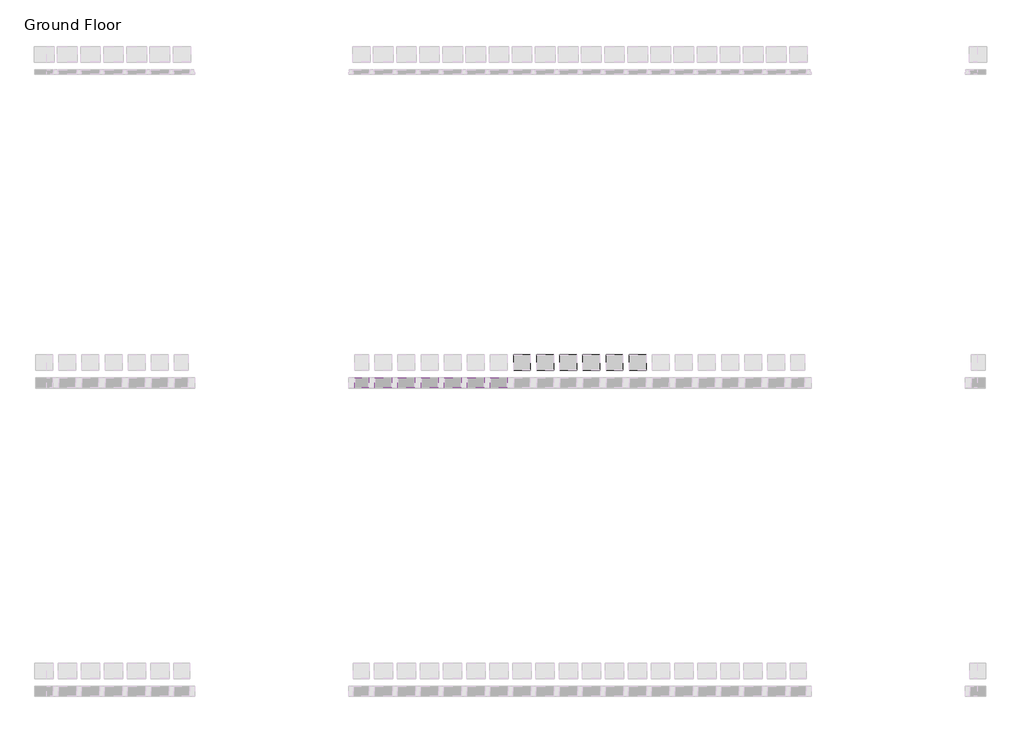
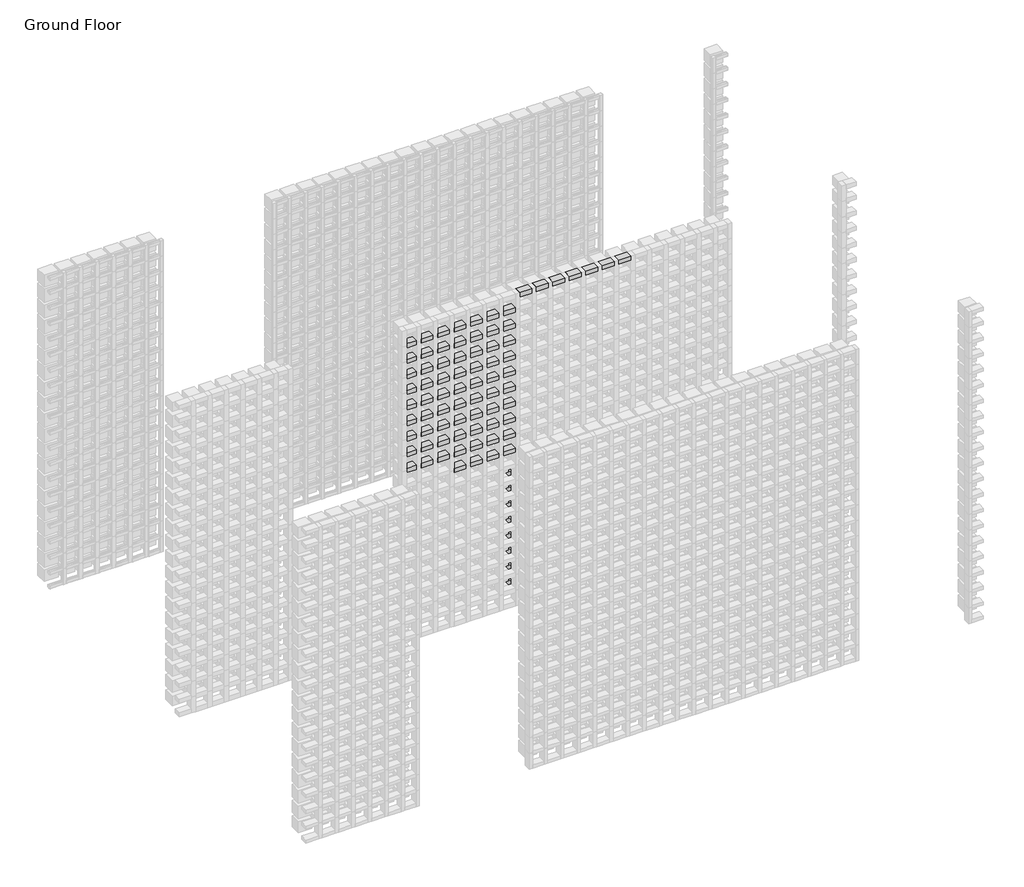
# One storey, part 129 of 350: 86 members, 55 plates.
"""IFC4 building model written with IfcOpenShell, lengths in millimetres."""

from ifc_helpers import new_model, si_unit, origin, place, context, project, spatial, transform, mapped, element, save
from components import rectangular_mullion_655930e9, rectangular_mullion_581565bb, rectangular_mullion_d5b82d3d, rectangular_mullion_0b6a8654, rectangular_mullion_97e353d0, empty_system_panel_empty_3b500fad, empty_system_panel_empty_1faefc6a

model = new_model("IFC4")

# Units and contexts
model_context = context("Model", 3, world=origin())
ifc_project = project(units=[si_unit("LENGTHUNIT", "METRE", prefix="MILLI")], contexts=[model_context])

# Site, building, storey
site = spatial("IfcSite", under=ifc_project)
building = spatial("IfcBuilding", under=site)
storey = spatial("IfcBuildingStorey", under=building, Name="Ground Floor", Elevation=0.0)

# Members
placement = place(None, origin())
rectangular_mullion_shape = rectangular_mullion_655930e9(model_context)
element("IfcMember", 1, ObjectType="Rectangular Mullion : Batten_Timber_Modinex_Austratus_Grid_Fascia_40x65_Hemlock", at=placement, inside=storey, context=model_context, shape_type="MappedRepresentation", body=[
    mapped(rectangular_mullion_shape, transform((11116.4361642, 40968.2978302, 0.0), x_axis=(1.0, 0.0, 0.0), y_axis=(0.0, -1.0, 0.0), z_axis=(0.0, 0.0, -1.0))),
])
element("IfcMember", 2, ObjectType="Rectangular Mullion : Batten_Timber_Modinex_Austratus_Grid_Fascia_40x65_Hemlock", at=placement, inside=storey, context=model_context, shape_type="MappedRepresentation", body=[
    mapped(rectangular_mullion_shape, transform((11266.4361642, 40968.2978302, 0.0), x_axis=(1.0, 0.0, 0.0), y_axis=(0.0, -1.0, 0.0), z_axis=(0.0, 0.0, -1.0))),
])
element("IfcMember", 3, ObjectType="Rectangular Mullion : Batten_Timber_Modinex_Austratus_Grid_Fascia_40x65_Hemlock", at=placement, inside=storey, context=model_context, shape_type="MappedRepresentation", body=[
    mapped(rectangular_mullion_shape, transform((11416.4361642, 40968.2978302, 0.0), x_axis=(1.0, 0.0, 0.0), y_axis=(0.0, -1.0, 0.0), z_axis=(0.0, 0.0, -1.0))),
])
element("IfcMember", 4, ObjectType="Rectangular Mullion : Batten_Timber_Modinex_Austratus_Grid_Fascia_40x65_Hemlock", at=placement, inside=storey, context=model_context, shape_type="MappedRepresentation", body=[
    mapped(rectangular_mullion_shape, transform((11566.4361642, 40968.2978302, 0.0), x_axis=(1.0, 0.0, 0.0), y_axis=(0.0, -1.0, 0.0), z_axis=(0.0, 0.0, -1.0))),
])
element("IfcMember", 5, ObjectType="Rectangular Mullion : Batten_Timber_Modinex_Austratus_Grid_Fascia_40x65_Hemlock", at=placement, inside=storey, context=model_context, shape_type="MappedRepresentation", body=[
    mapped(rectangular_mullion_shape, transform((11716.4361642, 40968.2978302, 0.0), x_axis=(1.0, 0.0, 0.0), y_axis=(0.0, -1.0, 0.0), z_axis=(0.0, 0.0, -1.0))),
])
element("IfcMember", 6, ObjectType="Rectangular Mullion : Batten_Timber_Modinex_Austratus_Grid_Fascia_40x65_Hemlock", at=placement, inside=storey, context=model_context, shape_type="MappedRepresentation", body=[
    mapped(rectangular_mullion_shape, transform((11866.4361642, 40968.2978302, 0.0), x_axis=(1.0, 0.0, 0.0), y_axis=(0.0, -1.0, 0.0), z_axis=(0.0, 0.0, -1.0))),
])
rectangular_mullion_2_shape = rectangular_mullion_581565bb(model_context)
element("IfcMember", 7, ObjectType="Rectangular Mullion : Batten_Timber_Modinex_Austratus_Grid_Fascia_40x65_Hemlock", at=placement, inside=storey, context=model_context, shape_type="MappedRepresentation", body=[
    mapped(rectangular_mullion_2_shape, transform((11096.4361642, 40968.2978302, 3000.0), x_axis=(0.0, 0.0, 1.0), y_axis=(0.0, -1.0, 0.0), z_axis=(1.0, 0.0, 0.0))),
])
element("IfcMember", 8, ObjectType="Rectangular Mullion : Batten_Timber_Modinex_Austratus_Grid_Fascia_40x65_Hemlock", at=placement, inside=storey, context=model_context, shape_type="MappedRepresentation", body=[
    mapped(rectangular_mullion_2_shape, transform((11246.4361642, 40968.2978302, 3000.0), x_axis=(0.0, 0.0, 1.0), y_axis=(0.0, -1.0, 0.0), z_axis=(1.0, 0.0, 0.0))),
])
element("IfcMember", 9, ObjectType="Rectangular Mullion : Batten_Timber_Modinex_Austratus_Grid_Fascia_40x65_Hemlock", at=placement, inside=storey, context=model_context, shape_type="MappedRepresentation", body=[
    mapped(rectangular_mullion_2_shape, transform((11396.4361642, 40968.2978302, 3000.0), x_axis=(0.0, 0.0, 1.0), y_axis=(0.0, -1.0, 0.0), z_axis=(1.0, 0.0, 0.0))),
])
element("IfcMember", 10, ObjectType="Rectangular Mullion : Batten_Timber_Modinex_Austratus_Grid_Fascia_40x65_Hemlock", at=placement, inside=storey, context=model_context, shape_type="MappedRepresentation", body=[
    mapped(rectangular_mullion_2_shape, transform((11546.4361642, 40968.2978302, 3000.0), x_axis=(0.0, 0.0, 1.0), y_axis=(0.0, -1.0, 0.0), z_axis=(1.0, 0.0, 0.0))),
])
element("IfcMember", 11, ObjectType="Rectangular Mullion : Batten_Timber_Modinex_Austratus_Grid_Fascia_40x65_Hemlock", at=placement, inside=storey, context=model_context, shape_type="MappedRepresentation", body=[
    mapped(rectangular_mullion_2_shape, transform((11696.4361642, 40968.2978302, 3000.0), x_axis=(0.0, 0.0, 1.0), y_axis=(0.0, -1.0, 0.0), z_axis=(1.0, 0.0, 0.0))),
])
element("IfcMember", 12, ObjectType="Rectangular Mullion : Batten_Timber_Modinex_Austratus_Grid_Fascia_40x65_Hemlock", at=placement, inside=storey, context=model_context, shape_type="MappedRepresentation", body=[
    mapped(rectangular_mullion_2_shape, transform((11846.4361642, 40968.2978302, 3000.0), x_axis=(0.0, 0.0, 1.0), y_axis=(0.0, -1.0, 0.0), z_axis=(1.0, 0.0, 0.0))),
])
element("IfcMember", 13, ObjectType="Rectangular Mullion : Batten_Timber_Modinex_Austratus_Grid_Fascia_40x65_Hemlock", at=placement, inside=storey, context=model_context, shape_type="MappedRepresentation", body=[
    mapped(rectangular_mullion_2_shape, transform((11996.4361642, 40968.2978302, 3000.0), x_axis=(0.0, 0.0, 1.0), y_axis=(0.0, -1.0, 0.0), z_axis=(1.0, 0.0, 0.0))),
])
rectangular_mullion_3_shape = rectangular_mullion_d5b82d3d(model_context)
element("IfcMember", 14, ObjectType="Rectangular Mullion : Batten_Timber_Modinex_Austratus_Grid_Fascia_40x65_Hemlock", at=placement, inside=storey, context=model_context, shape_type="MappedRepresentation", body=[
    mapped(rectangular_mullion_3_shape, transform((11136.4361642, 40968.2978302, 0.0), x_axis=(0.0, 0.0, -1.0), y_axis=(0.0, -1.0, 0.0), z_axis=(-1.0, 0.0, 0.0))),
])
element("IfcMember", 15, ObjectType="Rectangular Mullion : Batten_Timber_Modinex_Austratus_Grid_Fascia_40x65_Hemlock", at=placement, inside=storey, context=model_context, shape_type="MappedRepresentation", body=[
    mapped(rectangular_mullion_3_shape, transform((11286.4361642, 40968.2978302, 0.0), x_axis=(0.0, 0.0, -1.0), y_axis=(0.0, -1.0, 0.0), z_axis=(-1.0, 0.0, 0.0))),
])
element("IfcMember", 16, ObjectType="Rectangular Mullion : Batten_Timber_Modinex_Austratus_Grid_Fascia_40x65_Hemlock", at=placement, inside=storey, context=model_context, shape_type="MappedRepresentation", body=[
    mapped(rectangular_mullion_3_shape, transform((11436.4361642, 40968.2978302, 0.0), x_axis=(0.0, 0.0, -1.0), y_axis=(0.0, -1.0, 0.0), z_axis=(-1.0, 0.0, 0.0))),
])
element("IfcMember", 17, ObjectType="Rectangular Mullion : Batten_Timber_Modinex_Austratus_Grid_Fascia_40x65_Hemlock", at=placement, inside=storey, context=model_context, shape_type="MappedRepresentation", body=[
    mapped(rectangular_mullion_3_shape, transform((11586.4361642, 40968.2978302, 0.0), x_axis=(0.0, 0.0, -1.0), y_axis=(0.0, -1.0, 0.0), z_axis=(-1.0, 0.0, 0.0))),
])
element("IfcMember", 18, ObjectType="Rectangular Mullion : Batten_Timber_Modinex_Austratus_Grid_Fascia_40x65_Hemlock", at=placement, inside=storey, context=model_context, shape_type="MappedRepresentation", body=[
    mapped(rectangular_mullion_3_shape, transform((11736.4361642, 40968.2978302, 0.0), x_axis=(0.0, 0.0, -1.0), y_axis=(0.0, -1.0, 0.0), z_axis=(-1.0, 0.0, 0.0))),
])
element("IfcMember", 19, ObjectType="Rectangular Mullion : Batten_Timber_Modinex_Austratus_Grid_Fascia_40x65_Hemlock", at=placement, inside=storey, context=model_context, shape_type="MappedRepresentation", body=[
    mapped(rectangular_mullion_3_shape, transform((11886.4361642, 40968.2978302, 0.0), x_axis=(0.0, 0.0, -1.0), y_axis=(0.0, -1.0, 0.0), z_axis=(-1.0, 0.0, 0.0))),
])
rectangular_mullion_4_shape = rectangular_mullion_0b6a8654(model_context)
element("IfcMember", 20, ObjectType="Rectangular Mullion : Batten_Timber_Modinex_Austratus_Grid_Fascia_40x65_Hemlock", at=placement, inside=storey, context=model_context, shape_type="MappedRepresentation", body=[
    mapped(rectangular_mullion_4_shape, transform((10046.4361642, 40968.2978302, 1650.0), x_axis=(0.0, 0.0, 1.0), y_axis=(0.0, -1.0, 0.0), z_axis=(1.0, 0.0, 0.0))),
])
element("IfcMember", 21, ObjectType="Rectangular Mullion : Batten_Timber_Modinex_Austratus_Grid_Fascia_40x65_Hemlock", at=placement, inside=storey, context=model_context, shape_type="MappedRepresentation", body=[
    mapped(rectangular_mullion_4_shape, transform((10046.4361642, 40968.2978302, 1800.0), x_axis=(0.0, 0.0, 1.0), y_axis=(0.0, -1.0, 0.0), z_axis=(1.0, 0.0, 0.0))),
])
element("IfcMember", 22, ObjectType="Rectangular Mullion : Batten_Timber_Modinex_Austratus_Grid_Fascia_40x65_Hemlock", at=placement, inside=storey, context=model_context, shape_type="MappedRepresentation", body=[
    mapped(rectangular_mullion_4_shape, transform((10046.4361642, 40968.2978302, 1950.0), x_axis=(0.0, 0.0, 1.0), y_axis=(0.0, -1.0, 0.0), z_axis=(1.0, 0.0, 0.0))),
])
element("IfcMember", 23, ObjectType="Rectangular Mullion : Batten_Timber_Modinex_Austratus_Grid_Fascia_40x65_Hemlock", at=placement, inside=storey, context=model_context, shape_type="MappedRepresentation", body=[
    mapped(rectangular_mullion_4_shape, transform((10046.4361642, 40968.2978302, 2100.0), x_axis=(0.0, 0.0, 1.0), y_axis=(0.0, -1.0, 0.0), z_axis=(1.0, 0.0, 0.0))),
])
element("IfcMember", 24, ObjectType="Rectangular Mullion : Batten_Timber_Modinex_Austratus_Grid_Fascia_40x65_Hemlock", at=placement, inside=storey, context=model_context, shape_type="MappedRepresentation", body=[
    mapped(rectangular_mullion_4_shape, transform((10046.4361642, 40968.2978302, 2250.0), x_axis=(0.0, 0.0, 1.0), y_axis=(0.0, -1.0, 0.0), z_axis=(1.0, 0.0, 0.0))),
])
element("IfcMember", 25, ObjectType="Rectangular Mullion : Batten_Timber_Modinex_Austratus_Grid_Fascia_40x65_Hemlock", at=placement, inside=storey, context=model_context, shape_type="MappedRepresentation", body=[
    mapped(rectangular_mullion_4_shape, transform((10046.4361642, 40968.2978302, 2400.0), x_axis=(0.0, 0.0, 1.0), y_axis=(0.0, -1.0, 0.0), z_axis=(1.0, 0.0, 0.0))),
])
element("IfcMember", 26, ObjectType="Rectangular Mullion : Batten_Timber_Modinex_Austratus_Grid_Fascia_40x65_Hemlock", at=placement, inside=storey, context=model_context, shape_type="MappedRepresentation", body=[
    mapped(rectangular_mullion_4_shape, transform((10046.4361642, 40968.2978302, 2550.0), x_axis=(0.0, 0.0, 1.0), y_axis=(0.0, -1.0, 0.0), z_axis=(1.0, 0.0, 0.0))),
])
element("IfcMember", 27, ObjectType="Rectangular Mullion : Batten_Timber_Modinex_Austratus_Grid_Fascia_40x65_Hemlock", at=placement, inside=storey, context=model_context, shape_type="MappedRepresentation", body=[
    mapped(rectangular_mullion_4_shape, transform((10046.4361642, 40968.2978302, 2700.0), x_axis=(0.0, 0.0, 1.0), y_axis=(0.0, -1.0, 0.0), z_axis=(1.0, 0.0, 0.0))),
])
element("IfcMember", 28, ObjectType="Rectangular Mullion : Batten_Timber_Modinex_Austratus_Grid_Fascia_40x65_Hemlock", at=placement, inside=storey, context=model_context, shape_type="MappedRepresentation", body=[
    mapped(rectangular_mullion_4_shape, transform((10046.4361642, 40968.2978302, 2850.0), x_axis=(0.0, 0.0, 1.0), y_axis=(0.0, -1.0, 0.0), z_axis=(1.0, 0.0, 0.0))),
])
rectangular_mullion_5_shape = rectangular_mullion_97e353d0(model_context)
element("IfcMember", 29, ObjectType="Rectangular Mullion : Batten_Timber_Modinex_Austratus_Grid_Fascia_40x65_Hemlock", at=placement, inside=storey, context=model_context, shape_type="MappedRepresentation", body=[
    mapped(rectangular_mullion_5_shape, transform((10496.4361642, 40968.2978302, 1500.0), x_axis=(0.0, 0.0, 1.0), y_axis=(0.0, -1.0, 0.0), z_axis=(1.0, 0.0, 0.0))),
])
element("IfcMember", 30, ObjectType="Rectangular Mullion : Batten_Timber_Modinex_Austratus_Grid_Fascia_40x65_Hemlock", at=placement, inside=storey, context=model_context, shape_type="MappedRepresentation", body=[
    mapped(rectangular_mullion_5_shape, transform((10646.4361642, 40968.2978302, 1500.0), x_axis=(0.0, 0.0, 1.0), y_axis=(0.0, -1.0, 0.0), z_axis=(1.0, 0.0, 0.0))),
])
element("IfcMember", 31, ObjectType="Rectangular Mullion : Batten_Timber_Modinex_Austratus_Grid_Fascia_40x65_Hemlock", at=placement, inside=storey, context=model_context, shape_type="MappedRepresentation", body=[
    mapped(rectangular_mullion_5_shape, transform((10796.4361642, 40968.2978302, 1500.0), x_axis=(0.0, 0.0, 1.0), y_axis=(0.0, -1.0, 0.0), z_axis=(1.0, 0.0, 0.0))),
])
element("IfcMember", 32, ObjectType="Rectangular Mullion : Batten_Timber_Modinex_Austratus_Grid_Fascia_40x65_Hemlock", at=placement, inside=storey, context=model_context, shape_type="MappedRepresentation", body=[
    mapped(rectangular_mullion_5_shape, transform((10946.4361642, 40968.2978302, 1500.0), x_axis=(0.0, 0.0, 1.0), y_axis=(0.0, -1.0, 0.0), z_axis=(1.0, 0.0, 0.0))),
])
element("IfcMember", 33, ObjectType="Rectangular Mullion : Batten_Timber_Modinex_Austratus_Grid_Fascia_40x65_Hemlock", at=placement, inside=storey, context=model_context, shape_type="MappedRepresentation", body=[
    mapped(rectangular_mullion_5_shape, transform((10196.4361642, 40968.2978302, 1650.0), x_axis=(0.0, 0.0, 1.0), y_axis=(0.0, -1.0, 0.0), z_axis=(1.0, 0.0, 0.0))),
])
element("IfcMember", 34, ObjectType="Rectangular Mullion : Batten_Timber_Modinex_Austratus_Grid_Fascia_40x65_Hemlock", at=placement, inside=storey, context=model_context, shape_type="MappedRepresentation", body=[
    mapped(rectangular_mullion_5_shape, transform((10346.4361642, 40968.2978302, 1650.0), x_axis=(0.0, 0.0, 1.0), y_axis=(0.0, -1.0, 0.0), z_axis=(1.0, 0.0, 0.0))),
])
element("IfcMember", 35, ObjectType="Rectangular Mullion : Batten_Timber_Modinex_Austratus_Grid_Fascia_40x65_Hemlock", at=placement, inside=storey, context=model_context, shape_type="MappedRepresentation", body=[
    mapped(rectangular_mullion_5_shape, transform((10496.4361642, 40968.2978302, 1650.0), x_axis=(0.0, 0.0, 1.0), y_axis=(0.0, -1.0, 0.0), z_axis=(1.0, 0.0, 0.0))),
])
element("IfcMember", 36, ObjectType="Rectangular Mullion : Batten_Timber_Modinex_Austratus_Grid_Fascia_40x65_Hemlock", at=placement, inside=storey, context=model_context, shape_type="MappedRepresentation", body=[
    mapped(rectangular_mullion_5_shape, transform((10646.4361642, 40968.2978302, 1650.0), x_axis=(0.0, 0.0, 1.0), y_axis=(0.0, -1.0, 0.0), z_axis=(1.0, 0.0, 0.0))),
])
element("IfcMember", 37, ObjectType="Rectangular Mullion : Batten_Timber_Modinex_Austratus_Grid_Fascia_40x65_Hemlock", at=placement, inside=storey, context=model_context, shape_type="MappedRepresentation", body=[
    mapped(rectangular_mullion_5_shape, transform((10796.4361642, 40968.2978302, 1650.0), x_axis=(0.0, 0.0, 1.0), y_axis=(0.0, -1.0, 0.0), z_axis=(1.0, 0.0, 0.0))),
])
element("IfcMember", 38, ObjectType="Rectangular Mullion : Batten_Timber_Modinex_Austratus_Grid_Fascia_40x65_Hemlock", at=placement, inside=storey, context=model_context, shape_type="MappedRepresentation", body=[
    mapped(rectangular_mullion_5_shape, transform((10946.4361642, 40968.2978302, 1650.0), x_axis=(0.0, 0.0, 1.0), y_axis=(0.0, -1.0, 0.0), z_axis=(1.0, 0.0, 0.0))),
])
element("IfcMember", 39, ObjectType="Rectangular Mullion : Batten_Timber_Modinex_Austratus_Grid_Fascia_40x65_Hemlock", at=placement, inside=storey, context=model_context, shape_type="MappedRepresentation", body=[
    mapped(rectangular_mullion_5_shape, transform((10196.4361642, 40968.2978302, 1800.0), x_axis=(0.0, 0.0, 1.0), y_axis=(0.0, -1.0, 0.0), z_axis=(1.0, 0.0, 0.0))),
])
element("IfcMember", 40, ObjectType="Rectangular Mullion : Batten_Timber_Modinex_Austratus_Grid_Fascia_40x65_Hemlock", at=placement, inside=storey, context=model_context, shape_type="MappedRepresentation", body=[
    mapped(rectangular_mullion_5_shape, transform((10346.4361642, 40968.2978302, 1800.0), x_axis=(0.0, 0.0, 1.0), y_axis=(0.0, -1.0, 0.0), z_axis=(1.0, 0.0, 0.0))),
])
element("IfcMember", 41, ObjectType="Rectangular Mullion : Batten_Timber_Modinex_Austratus_Grid_Fascia_40x65_Hemlock", at=placement, inside=storey, context=model_context, shape_type="MappedRepresentation", body=[
    mapped(rectangular_mullion_5_shape, transform((10496.4361642, 40968.2978302, 1800.0), x_axis=(0.0, 0.0, 1.0), y_axis=(0.0, -1.0, 0.0), z_axis=(1.0, 0.0, 0.0))),
])
element("IfcMember", 42, ObjectType="Rectangular Mullion : Batten_Timber_Modinex_Austratus_Grid_Fascia_40x65_Hemlock", at=placement, inside=storey, context=model_context, shape_type="MappedRepresentation", body=[
    mapped(rectangular_mullion_5_shape, transform((10646.4361642, 40968.2978302, 1800.0), x_axis=(0.0, 0.0, 1.0), y_axis=(0.0, -1.0, 0.0), z_axis=(1.0, 0.0, 0.0))),
])
element("IfcMember", 43, ObjectType="Rectangular Mullion : Batten_Timber_Modinex_Austratus_Grid_Fascia_40x65_Hemlock", at=placement, inside=storey, context=model_context, shape_type="MappedRepresentation", body=[
    mapped(rectangular_mullion_5_shape, transform((10796.4361642, 40968.2978302, 1800.0), x_axis=(0.0, 0.0, 1.0), y_axis=(0.0, -1.0, 0.0), z_axis=(1.0, 0.0, 0.0))),
])
element("IfcMember", 44, ObjectType="Rectangular Mullion : Batten_Timber_Modinex_Austratus_Grid_Fascia_40x65_Hemlock", at=placement, inside=storey, context=model_context, shape_type="MappedRepresentation", body=[
    mapped(rectangular_mullion_5_shape, transform((10946.4361642, 40968.2978302, 1800.0), x_axis=(0.0, 0.0, 1.0), y_axis=(0.0, -1.0, 0.0), z_axis=(1.0, 0.0, 0.0))),
])
element("IfcMember", 45, ObjectType="Rectangular Mullion : Batten_Timber_Modinex_Austratus_Grid_Fascia_40x65_Hemlock", at=placement, inside=storey, context=model_context, shape_type="MappedRepresentation", body=[
    mapped(rectangular_mullion_5_shape, transform((10196.4361642, 40968.2978302, 1950.0), x_axis=(0.0, 0.0, 1.0), y_axis=(0.0, -1.0, 0.0), z_axis=(1.0, 0.0, 0.0))),
])
element("IfcMember", 46, ObjectType="Rectangular Mullion : Batten_Timber_Modinex_Austratus_Grid_Fascia_40x65_Hemlock", at=placement, inside=storey, context=model_context, shape_type="MappedRepresentation", body=[
    mapped(rectangular_mullion_5_shape, transform((10346.4361642, 40968.2978302, 1950.0), x_axis=(0.0, 0.0, 1.0), y_axis=(0.0, -1.0, 0.0), z_axis=(1.0, 0.0, 0.0))),
])
element("IfcMember", 47, ObjectType="Rectangular Mullion : Batten_Timber_Modinex_Austratus_Grid_Fascia_40x65_Hemlock", at=placement, inside=storey, context=model_context, shape_type="MappedRepresentation", body=[
    mapped(rectangular_mullion_5_shape, transform((10496.4361642, 40968.2978302, 1950.0), x_axis=(0.0, 0.0, 1.0), y_axis=(0.0, -1.0, 0.0), z_axis=(1.0, 0.0, 0.0))),
])
element("IfcMember", 48, ObjectType="Rectangular Mullion : Batten_Timber_Modinex_Austratus_Grid_Fascia_40x65_Hemlock", at=placement, inside=storey, context=model_context, shape_type="MappedRepresentation", body=[
    mapped(rectangular_mullion_5_shape, transform((10646.4361642, 40968.2978302, 1950.0), x_axis=(0.0, 0.0, 1.0), y_axis=(0.0, -1.0, 0.0), z_axis=(1.0, 0.0, 0.0))),
])
element("IfcMember", 49, ObjectType="Rectangular Mullion : Batten_Timber_Modinex_Austratus_Grid_Fascia_40x65_Hemlock", at=placement, inside=storey, context=model_context, shape_type="MappedRepresentation", body=[
    mapped(rectangular_mullion_5_shape, transform((10796.4361642, 40968.2978302, 1950.0), x_axis=(0.0, 0.0, 1.0), y_axis=(0.0, -1.0, 0.0), z_axis=(1.0, 0.0, 0.0))),
])
element("IfcMember", 50, ObjectType="Rectangular Mullion : Batten_Timber_Modinex_Austratus_Grid_Fascia_40x65_Hemlock", at=placement, inside=storey, context=model_context, shape_type="MappedRepresentation", body=[
    mapped(rectangular_mullion_5_shape, transform((10946.4361642, 40968.2978302, 1950.0), x_axis=(0.0, 0.0, 1.0), y_axis=(0.0, -1.0, 0.0), z_axis=(1.0, 0.0, 0.0))),
])
element("IfcMember", 51, ObjectType="Rectangular Mullion : Batten_Timber_Modinex_Austratus_Grid_Fascia_40x65_Hemlock", at=placement, inside=storey, context=model_context, shape_type="MappedRepresentation", body=[
    mapped(rectangular_mullion_5_shape, transform((10196.4361642, 40968.2978302, 2100.0), x_axis=(0.0, 0.0, 1.0), y_axis=(0.0, -1.0, 0.0), z_axis=(1.0, 0.0, 0.0))),
])
element("IfcMember", 52, ObjectType="Rectangular Mullion : Batten_Timber_Modinex_Austratus_Grid_Fascia_40x65_Hemlock", at=placement, inside=storey, context=model_context, shape_type="MappedRepresentation", body=[
    mapped(rectangular_mullion_5_shape, transform((10346.4361642, 40968.2978302, 2100.0), x_axis=(0.0, 0.0, 1.0), y_axis=(0.0, -1.0, 0.0), z_axis=(1.0, 0.0, 0.0))),
])
element("IfcMember", 53, ObjectType="Rectangular Mullion : Batten_Timber_Modinex_Austratus_Grid_Fascia_40x65_Hemlock", at=placement, inside=storey, context=model_context, shape_type="MappedRepresentation", body=[
    mapped(rectangular_mullion_5_shape, transform((10496.4361642, 40968.2978302, 2100.0), x_axis=(0.0, 0.0, 1.0), y_axis=(0.0, -1.0, 0.0), z_axis=(1.0, 0.0, 0.0))),
])
element("IfcMember", 54, ObjectType="Rectangular Mullion : Batten_Timber_Modinex_Austratus_Grid_Fascia_40x65_Hemlock", at=placement, inside=storey, context=model_context, shape_type="MappedRepresentation", body=[
    mapped(rectangular_mullion_5_shape, transform((10646.4361642, 40968.2978302, 2100.0), x_axis=(0.0, 0.0, 1.0), y_axis=(0.0, -1.0, 0.0), z_axis=(1.0, 0.0, 0.0))),
])
element("IfcMember", 55, ObjectType="Rectangular Mullion : Batten_Timber_Modinex_Austratus_Grid_Fascia_40x65_Hemlock", at=placement, inside=storey, context=model_context, shape_type="MappedRepresentation", body=[
    mapped(rectangular_mullion_5_shape, transform((10796.4361642, 40968.2978302, 2100.0), x_axis=(0.0, 0.0, 1.0), y_axis=(0.0, -1.0, 0.0), z_axis=(1.0, 0.0, 0.0))),
])
element("IfcMember", 56, ObjectType="Rectangular Mullion : Batten_Timber_Modinex_Austratus_Grid_Fascia_40x65_Hemlock", at=placement, inside=storey, context=model_context, shape_type="MappedRepresentation", body=[
    mapped(rectangular_mullion_5_shape, transform((10946.4361642, 40968.2978302, 2100.0), x_axis=(0.0, 0.0, 1.0), y_axis=(0.0, -1.0, 0.0), z_axis=(1.0, 0.0, 0.0))),
])
element("IfcMember", 57, ObjectType="Rectangular Mullion : Batten_Timber_Modinex_Austratus_Grid_Fascia_40x65_Hemlock", at=placement, inside=storey, context=model_context, shape_type="MappedRepresentation", body=[
    mapped(rectangular_mullion_5_shape, transform((10196.4361642, 40968.2978302, 2250.0), x_axis=(0.0, 0.0, 1.0), y_axis=(0.0, -1.0, 0.0), z_axis=(1.0, 0.0, 0.0))),
])
element("IfcMember", 58, ObjectType="Rectangular Mullion : Batten_Timber_Modinex_Austratus_Grid_Fascia_40x65_Hemlock", at=placement, inside=storey, context=model_context, shape_type="MappedRepresentation", body=[
    mapped(rectangular_mullion_5_shape, transform((10346.4361642, 40968.2978302, 2250.0), x_axis=(0.0, 0.0, 1.0), y_axis=(0.0, -1.0, 0.0), z_axis=(1.0, 0.0, 0.0))),
])
element("IfcMember", 59, ObjectType="Rectangular Mullion : Batten_Timber_Modinex_Austratus_Grid_Fascia_40x65_Hemlock", at=placement, inside=storey, context=model_context, shape_type="MappedRepresentation", body=[
    mapped(rectangular_mullion_5_shape, transform((10496.4361642, 40968.2978302, 2250.0), x_axis=(0.0, 0.0, 1.0), y_axis=(0.0, -1.0, 0.0), z_axis=(1.0, 0.0, 0.0))),
])
element("IfcMember", 60, ObjectType="Rectangular Mullion : Batten_Timber_Modinex_Austratus_Grid_Fascia_40x65_Hemlock", at=placement, inside=storey, context=model_context, shape_type="MappedRepresentation", body=[
    mapped(rectangular_mullion_5_shape, transform((10646.4361642, 40968.2978302, 2250.0), x_axis=(0.0, 0.0, 1.0), y_axis=(0.0, -1.0, 0.0), z_axis=(1.0, 0.0, 0.0))),
])
element("IfcMember", 61, ObjectType="Rectangular Mullion : Batten_Timber_Modinex_Austratus_Grid_Fascia_40x65_Hemlock", at=placement, inside=storey, context=model_context, shape_type="MappedRepresentation", body=[
    mapped(rectangular_mullion_5_shape, transform((10796.4361642, 40968.2978302, 2250.0), x_axis=(0.0, 0.0, 1.0), y_axis=(0.0, -1.0, 0.0), z_axis=(1.0, 0.0, 0.0))),
])
element("IfcMember", 62, ObjectType="Rectangular Mullion : Batten_Timber_Modinex_Austratus_Grid_Fascia_40x65_Hemlock", at=placement, inside=storey, context=model_context, shape_type="MappedRepresentation", body=[
    mapped(rectangular_mullion_5_shape, transform((10946.4361642, 40968.2978302, 2250.0), x_axis=(0.0, 0.0, 1.0), y_axis=(0.0, -1.0, 0.0), z_axis=(1.0, 0.0, 0.0))),
])
element("IfcMember", 63, ObjectType="Rectangular Mullion : Batten_Timber_Modinex_Austratus_Grid_Fascia_40x65_Hemlock", at=placement, inside=storey, context=model_context, shape_type="MappedRepresentation", body=[
    mapped(rectangular_mullion_5_shape, transform((10196.4361642, 40968.2978302, 2400.0), x_axis=(0.0, 0.0, 1.0), y_axis=(0.0, -1.0, 0.0), z_axis=(1.0, 0.0, 0.0))),
])
element("IfcMember", 64, ObjectType="Rectangular Mullion : Batten_Timber_Modinex_Austratus_Grid_Fascia_40x65_Hemlock", at=placement, inside=storey, context=model_context, shape_type="MappedRepresentation", body=[
    mapped(rectangular_mullion_5_shape, transform((10346.4361642, 40968.2978302, 2400.0), x_axis=(0.0, 0.0, 1.0), y_axis=(0.0, -1.0, 0.0), z_axis=(1.0, 0.0, 0.0))),
])
element("IfcMember", 65, ObjectType="Rectangular Mullion : Batten_Timber_Modinex_Austratus_Grid_Fascia_40x65_Hemlock", at=placement, inside=storey, context=model_context, shape_type="MappedRepresentation", body=[
    mapped(rectangular_mullion_5_shape, transform((10496.4361642, 40968.2978302, 2400.0), x_axis=(0.0, 0.0, 1.0), y_axis=(0.0, -1.0, 0.0), z_axis=(1.0, 0.0, 0.0))),
])
element("IfcMember", 66, ObjectType="Rectangular Mullion : Batten_Timber_Modinex_Austratus_Grid_Fascia_40x65_Hemlock", at=placement, inside=storey, context=model_context, shape_type="MappedRepresentation", body=[
    mapped(rectangular_mullion_5_shape, transform((10646.4361642, 40968.2978302, 2400.0), x_axis=(0.0, 0.0, 1.0), y_axis=(0.0, -1.0, 0.0), z_axis=(1.0, 0.0, 0.0))),
])
element("IfcMember", 67, ObjectType="Rectangular Mullion : Batten_Timber_Modinex_Austratus_Grid_Fascia_40x65_Hemlock", at=placement, inside=storey, context=model_context, shape_type="MappedRepresentation", body=[
    mapped(rectangular_mullion_5_shape, transform((10796.4361642, 40968.2978302, 2400.0), x_axis=(0.0, 0.0, 1.0), y_axis=(0.0, -1.0, 0.0), z_axis=(1.0, 0.0, 0.0))),
])
element("IfcMember", 68, ObjectType="Rectangular Mullion : Batten_Timber_Modinex_Austratus_Grid_Fascia_40x65_Hemlock", at=placement, inside=storey, context=model_context, shape_type="MappedRepresentation", body=[
    mapped(rectangular_mullion_5_shape, transform((10946.4361642, 40968.2978302, 2400.0), x_axis=(0.0, 0.0, 1.0), y_axis=(0.0, -1.0, 0.0), z_axis=(1.0, 0.0, 0.0))),
])
element("IfcMember", 69, ObjectType="Rectangular Mullion : Batten_Timber_Modinex_Austratus_Grid_Fascia_40x65_Hemlock", at=placement, inside=storey, context=model_context, shape_type="MappedRepresentation", body=[
    mapped(rectangular_mullion_5_shape, transform((10196.4361642, 40968.2978302, 2550.0), x_axis=(0.0, 0.0, 1.0), y_axis=(0.0, -1.0, 0.0), z_axis=(1.0, 0.0, 0.0))),
])
element("IfcMember", 70, ObjectType="Rectangular Mullion : Batten_Timber_Modinex_Austratus_Grid_Fascia_40x65_Hemlock", at=placement, inside=storey, context=model_context, shape_type="MappedRepresentation", body=[
    mapped(rectangular_mullion_5_shape, transform((10346.4361642, 40968.2978302, 2550.0), x_axis=(0.0, 0.0, 1.0), y_axis=(0.0, -1.0, 0.0), z_axis=(1.0, 0.0, 0.0))),
])
element("IfcMember", 71, ObjectType="Rectangular Mullion : Batten_Timber_Modinex_Austratus_Grid_Fascia_40x65_Hemlock", at=placement, inside=storey, context=model_context, shape_type="MappedRepresentation", body=[
    mapped(rectangular_mullion_5_shape, transform((10496.4361642, 40968.2978302, 2550.0), x_axis=(0.0, 0.0, 1.0), y_axis=(0.0, -1.0, 0.0), z_axis=(1.0, 0.0, 0.0))),
])
element("IfcMember", 72, ObjectType="Rectangular Mullion : Batten_Timber_Modinex_Austratus_Grid_Fascia_40x65_Hemlock", at=placement, inside=storey, context=model_context, shape_type="MappedRepresentation", body=[
    mapped(rectangular_mullion_5_shape, transform((10646.4361642, 40968.2978302, 2550.0), x_axis=(0.0, 0.0, 1.0), y_axis=(0.0, -1.0, 0.0), z_axis=(1.0, 0.0, 0.0))),
])
element("IfcMember", 73, ObjectType="Rectangular Mullion : Batten_Timber_Modinex_Austratus_Grid_Fascia_40x65_Hemlock", at=placement, inside=storey, context=model_context, shape_type="MappedRepresentation", body=[
    mapped(rectangular_mullion_5_shape, transform((10796.4361642, 40968.2978302, 2550.0), x_axis=(0.0, 0.0, 1.0), y_axis=(0.0, -1.0, 0.0), z_axis=(1.0, 0.0, 0.0))),
])
element("IfcMember", 74, ObjectType="Rectangular Mullion : Batten_Timber_Modinex_Austratus_Grid_Fascia_40x65_Hemlock", at=placement, inside=storey, context=model_context, shape_type="MappedRepresentation", body=[
    mapped(rectangular_mullion_5_shape, transform((10946.4361642, 40968.2978302, 2550.0), x_axis=(0.0, 0.0, 1.0), y_axis=(0.0, -1.0, 0.0), z_axis=(1.0, 0.0, 0.0))),
])
element("IfcMember", 75, ObjectType="Rectangular Mullion : Batten_Timber_Modinex_Austratus_Grid_Fascia_40x65_Hemlock", at=placement, inside=storey, context=model_context, shape_type="MappedRepresentation", body=[
    mapped(rectangular_mullion_5_shape, transform((10196.4361642, 40968.2978302, 2700.0), x_axis=(0.0, 0.0, 1.0), y_axis=(0.0, -1.0, 0.0), z_axis=(1.0, 0.0, 0.0))),
])
element("IfcMember", 76, ObjectType="Rectangular Mullion : Batten_Timber_Modinex_Austratus_Grid_Fascia_40x65_Hemlock", at=placement, inside=storey, context=model_context, shape_type="MappedRepresentation", body=[
    mapped(rectangular_mullion_5_shape, transform((10346.4361642, 40968.2978302, 2700.0), x_axis=(0.0, 0.0, 1.0), y_axis=(0.0, -1.0, 0.0), z_axis=(1.0, 0.0, 0.0))),
])
element("IfcMember", 77, ObjectType="Rectangular Mullion : Batten_Timber_Modinex_Austratus_Grid_Fascia_40x65_Hemlock", at=placement, inside=storey, context=model_context, shape_type="MappedRepresentation", body=[
    mapped(rectangular_mullion_5_shape, transform((10496.4361642, 40968.2978302, 2700.0), x_axis=(0.0, 0.0, 1.0), y_axis=(0.0, -1.0, 0.0), z_axis=(1.0, 0.0, 0.0))),
])
element("IfcMember", 78, ObjectType="Rectangular Mullion : Batten_Timber_Modinex_Austratus_Grid_Fascia_40x65_Hemlock", at=placement, inside=storey, context=model_context, shape_type="MappedRepresentation", body=[
    mapped(rectangular_mullion_5_shape, transform((10646.4361642, 40968.2978302, 2700.0), x_axis=(0.0, 0.0, 1.0), y_axis=(0.0, -1.0, 0.0), z_axis=(1.0, 0.0, 0.0))),
])
element("IfcMember", 79, ObjectType="Rectangular Mullion : Batten_Timber_Modinex_Austratus_Grid_Fascia_40x65_Hemlock", at=placement, inside=storey, context=model_context, shape_type="MappedRepresentation", body=[
    mapped(rectangular_mullion_5_shape, transform((10796.4361642, 40968.2978302, 2700.0), x_axis=(0.0, 0.0, 1.0), y_axis=(0.0, -1.0, 0.0), z_axis=(1.0, 0.0, 0.0))),
])
element("IfcMember", 80, ObjectType="Rectangular Mullion : Batten_Timber_Modinex_Austratus_Grid_Fascia_40x65_Hemlock", at=placement, inside=storey, context=model_context, shape_type="MappedRepresentation", body=[
    mapped(rectangular_mullion_5_shape, transform((10946.4361642, 40968.2978302, 2700.0), x_axis=(0.0, 0.0, 1.0), y_axis=(0.0, -1.0, 0.0), z_axis=(1.0, 0.0, 0.0))),
])
element("IfcMember", 81, ObjectType="Rectangular Mullion : Batten_Timber_Modinex_Austratus_Grid_Fascia_40x65_Hemlock", at=placement, inside=storey, context=model_context, shape_type="MappedRepresentation", body=[
    mapped(rectangular_mullion_5_shape, transform((10196.4361642, 40968.2978302, 2850.0), x_axis=(0.0, 0.0, 1.0), y_axis=(0.0, -1.0, 0.0), z_axis=(1.0, 0.0, 0.0))),
])
element("IfcMember", 82, ObjectType="Rectangular Mullion : Batten_Timber_Modinex_Austratus_Grid_Fascia_40x65_Hemlock", at=placement, inside=storey, context=model_context, shape_type="MappedRepresentation", body=[
    mapped(rectangular_mullion_5_shape, transform((10346.4361642, 40968.2978302, 2850.0), x_axis=(0.0, 0.0, 1.0), y_axis=(0.0, -1.0, 0.0), z_axis=(1.0, 0.0, 0.0))),
])
element("IfcMember", 83, ObjectType="Rectangular Mullion : Batten_Timber_Modinex_Austratus_Grid_Fascia_40x65_Hemlock", at=placement, inside=storey, context=model_context, shape_type="MappedRepresentation", body=[
    mapped(rectangular_mullion_5_shape, transform((10496.4361642, 40968.2978302, 2850.0), x_axis=(0.0, 0.0, 1.0), y_axis=(0.0, -1.0, 0.0), z_axis=(1.0, 0.0, 0.0))),
])
element("IfcMember", 84, ObjectType="Rectangular Mullion : Batten_Timber_Modinex_Austratus_Grid_Fascia_40x65_Hemlock", at=placement, inside=storey, context=model_context, shape_type="MappedRepresentation", body=[
    mapped(rectangular_mullion_5_shape, transform((10646.4361642, 40968.2978302, 2850.0), x_axis=(0.0, 0.0, 1.0), y_axis=(0.0, -1.0, 0.0), z_axis=(1.0, 0.0, 0.0))),
])
element("IfcMember", 85, ObjectType="Rectangular Mullion : Batten_Timber_Modinex_Austratus_Grid_Fascia_40x65_Hemlock", at=placement, inside=storey, context=model_context, shape_type="MappedRepresentation", body=[
    mapped(rectangular_mullion_5_shape, transform((10796.4361642, 40968.2978302, 2850.0), x_axis=(0.0, 0.0, 1.0), y_axis=(0.0, -1.0, 0.0), z_axis=(1.0, 0.0, 0.0))),
])
element("IfcMember", 86, ObjectType="Rectangular Mullion : Batten_Timber_Modinex_Austratus_Grid_Fascia_40x65_Hemlock", at=placement, inside=storey, context=model_context, shape_type="MappedRepresentation", body=[
    mapped(rectangular_mullion_5_shape, transform((10946.4361642, 40968.2978302, 2850.0), x_axis=(0.0, 0.0, 1.0), y_axis=(0.0, -1.0, 0.0), z_axis=(1.0, 0.0, 0.0))),
])

# Plates
empty_system_panel_empty_shape = empty_system_panel_empty_3b500fad(model_context)
element("IfcPlate", 87, ObjectType="Empty System Panel : Empty", at=placement, inside=storey, context=model_context, shape_type="MappedRepresentation", body=[
    mapped(empty_system_panel_empty_shape, transform((11041.4361642, 40968.2978302, 170.0), x_axis=(1.0, 0.0, 0.0), y_axis=(0.0, 1.0, 0.0), z_axis=(0.0, 0.0, 1.0))),
])
element("IfcPlate", 88, ObjectType="Empty System Panel : Empty", at=placement, inside=storey, context=model_context, shape_type="MappedRepresentation", body=[
    mapped(empty_system_panel_empty_shape, transform((11191.4361642, 40968.2978302, 170.0), x_axis=(1.0, 0.0, 0.0), y_axis=(0.0, 1.0, 0.0), z_axis=(0.0, 0.0, 1.0))),
])
element("IfcPlate", 89, ObjectType="Empty System Panel : Empty", at=placement, inside=storey, context=model_context, shape_type="MappedRepresentation", body=[
    mapped(empty_system_panel_empty_shape, transform((11341.4361642, 40968.2978302, 170.0), x_axis=(1.0, 0.0, 0.0), y_axis=(0.0, 1.0, 0.0), z_axis=(0.0, 0.0, 1.0))),
])
element("IfcPlate", 90, ObjectType="Empty System Panel : Empty", at=placement, inside=storey, context=model_context, shape_type="MappedRepresentation", body=[
    mapped(empty_system_panel_empty_shape, transform((11491.4361642, 40968.2978302, 170.0), x_axis=(1.0, 0.0, 0.0), y_axis=(0.0, 1.0, 0.0), z_axis=(0.0, 0.0, 1.0))),
])
element("IfcPlate", 91, ObjectType="Empty System Panel : Empty", at=placement, inside=storey, context=model_context, shape_type="MappedRepresentation", body=[
    mapped(empty_system_panel_empty_shape, transform((11641.4361642, 40968.2978302, 170.0), x_axis=(1.0, 0.0, 0.0), y_axis=(0.0, 1.0, 0.0), z_axis=(0.0, 0.0, 1.0))),
])
element("IfcPlate", 92, ObjectType="Empty System Panel : Empty", at=placement, inside=storey, context=model_context, shape_type="MappedRepresentation", body=[
    mapped(empty_system_panel_empty_shape, transform((11791.4361642, 40968.2978302, 170.0), x_axis=(1.0, 0.0, 0.0), y_axis=(0.0, 1.0, 0.0), z_axis=(0.0, 0.0, 1.0))),
])
element("IfcPlate", 93, ObjectType="Empty System Panel : Empty", at=placement, inside=storey, context=model_context, shape_type="MappedRepresentation", body=[
    mapped(empty_system_panel_empty_shape, transform((11941.4361642, 40968.2978302, 170.0), x_axis=(1.0, 0.0, 0.0), y_axis=(0.0, 1.0, 0.0), z_axis=(0.0, 0.0, 1.0))),
])
element("IfcPlate", 94, ObjectType="Empty System Panel : Empty", at=placement, inside=storey, context=model_context, shape_type="MappedRepresentation", body=[
    mapped(empty_system_panel_empty_shape, transform((11041.4361642, 40968.2978302, 320.0), x_axis=(1.0, 0.0, 0.0), y_axis=(0.0, 1.0, 0.0), z_axis=(0.0, 0.0, 1.0))),
])
element("IfcPlate", 95, ObjectType="Empty System Panel : Empty", at=placement, inside=storey, context=model_context, shape_type="MappedRepresentation", body=[
    mapped(empty_system_panel_empty_shape, transform((11191.4361642, 40968.2978302, 320.0), x_axis=(1.0, 0.0, 0.0), y_axis=(0.0, 1.0, 0.0), z_axis=(0.0, 0.0, 1.0))),
])
element("IfcPlate", 96, ObjectType="Empty System Panel : Empty", at=placement, inside=storey, context=model_context, shape_type="MappedRepresentation", body=[
    mapped(empty_system_panel_empty_shape, transform((11341.4361642, 40968.2978302, 320.0), x_axis=(1.0, 0.0, 0.0), y_axis=(0.0, 1.0, 0.0), z_axis=(0.0, 0.0, 1.0))),
])
element("IfcPlate", 97, ObjectType="Empty System Panel : Empty", at=placement, inside=storey, context=model_context, shape_type="MappedRepresentation", body=[
    mapped(empty_system_panel_empty_shape, transform((11491.4361642, 40968.2978302, 320.0), x_axis=(1.0, 0.0, 0.0), y_axis=(0.0, 1.0, 0.0), z_axis=(0.0, 0.0, 1.0))),
])
element("IfcPlate", 98, ObjectType="Empty System Panel : Empty", at=placement, inside=storey, context=model_context, shape_type="MappedRepresentation", body=[
    mapped(empty_system_panel_empty_shape, transform((11641.4361642, 40968.2978302, 320.0), x_axis=(1.0, 0.0, 0.0), y_axis=(0.0, 1.0, 0.0), z_axis=(0.0, 0.0, 1.0))),
])
element("IfcPlate", 99, ObjectType="Empty System Panel : Empty", at=placement, inside=storey, context=model_context, shape_type="MappedRepresentation", body=[
    mapped(empty_system_panel_empty_shape, transform((11791.4361642, 40968.2978302, 320.0), x_axis=(1.0, 0.0, 0.0), y_axis=(0.0, 1.0, 0.0), z_axis=(0.0, 0.0, 1.0))),
])
element("IfcPlate", 100, ObjectType="Empty System Panel : Empty", at=placement, inside=storey, context=model_context, shape_type="MappedRepresentation", body=[
    mapped(empty_system_panel_empty_shape, transform((11941.4361642, 40968.2978302, 320.0), x_axis=(1.0, 0.0, 0.0), y_axis=(0.0, 1.0, 0.0), z_axis=(0.0, 0.0, 1.0))),
])
element("IfcPlate", 101, ObjectType="Empty System Panel : Empty", at=placement, inside=storey, context=model_context, shape_type="MappedRepresentation", body=[
    mapped(empty_system_panel_empty_shape, transform((11041.4361642, 40968.2978302, 470.0), x_axis=(1.0, 0.0, 0.0), y_axis=(0.0, 1.0, 0.0), z_axis=(0.0, 0.0, 1.0))),
])
element("IfcPlate", 102, ObjectType="Empty System Panel : Empty", at=placement, inside=storey, context=model_context, shape_type="MappedRepresentation", body=[
    mapped(empty_system_panel_empty_shape, transform((11191.4361642, 40968.2978302, 470.0), x_axis=(1.0, 0.0, 0.0), y_axis=(0.0, 1.0, 0.0), z_axis=(0.0, 0.0, 1.0))),
])
element("IfcPlate", 103, ObjectType="Empty System Panel : Empty", at=placement, inside=storey, context=model_context, shape_type="MappedRepresentation", body=[
    mapped(empty_system_panel_empty_shape, transform((11341.4361642, 40968.2978302, 470.0), x_axis=(1.0, 0.0, 0.0), y_axis=(0.0, 1.0, 0.0), z_axis=(0.0, 0.0, 1.0))),
])
element("IfcPlate", 104, ObjectType="Empty System Panel : Empty", at=placement, inside=storey, context=model_context, shape_type="MappedRepresentation", body=[
    mapped(empty_system_panel_empty_shape, transform((11491.4361642, 40968.2978302, 470.0), x_axis=(1.0, 0.0, 0.0), y_axis=(0.0, 1.0, 0.0), z_axis=(0.0, 0.0, 1.0))),
])
element("IfcPlate", 105, ObjectType="Empty System Panel : Empty", at=placement, inside=storey, context=model_context, shape_type="MappedRepresentation", body=[
    mapped(empty_system_panel_empty_shape, transform((11641.4361642, 40968.2978302, 470.0), x_axis=(1.0, 0.0, 0.0), y_axis=(0.0, 1.0, 0.0), z_axis=(0.0, 0.0, 1.0))),
])
element("IfcPlate", 106, ObjectType="Empty System Panel : Empty", at=placement, inside=storey, context=model_context, shape_type="MappedRepresentation", body=[
    mapped(empty_system_panel_empty_shape, transform((11791.4361642, 40968.2978302, 470.0), x_axis=(1.0, 0.0, 0.0), y_axis=(0.0, 1.0, 0.0), z_axis=(0.0, 0.0, 1.0))),
])
element("IfcPlate", 107, ObjectType="Empty System Panel : Empty", at=placement, inside=storey, context=model_context, shape_type="MappedRepresentation", body=[
    mapped(empty_system_panel_empty_shape, transform((11941.4361642, 40968.2978302, 470.0), x_axis=(1.0, 0.0, 0.0), y_axis=(0.0, 1.0, 0.0), z_axis=(0.0, 0.0, 1.0))),
])
element("IfcPlate", 108, ObjectType="Empty System Panel : Empty", at=placement, inside=storey, context=model_context, shape_type="MappedRepresentation", body=[
    mapped(empty_system_panel_empty_shape, transform((11041.4361642, 40968.2978302, 620.0), x_axis=(1.0, 0.0, 0.0), y_axis=(0.0, 1.0, 0.0), z_axis=(0.0, 0.0, 1.0))),
])
element("IfcPlate", 109, ObjectType="Empty System Panel : Empty", at=placement, inside=storey, context=model_context, shape_type="MappedRepresentation", body=[
    mapped(empty_system_panel_empty_shape, transform((11191.4361642, 40968.2978302, 620.0), x_axis=(1.0, 0.0, 0.0), y_axis=(0.0, 1.0, 0.0), z_axis=(0.0, 0.0, 1.0))),
])
element("IfcPlate", 110, ObjectType="Empty System Panel : Empty", at=placement, inside=storey, context=model_context, shape_type="MappedRepresentation", body=[
    mapped(empty_system_panel_empty_shape, transform((11341.4361642, 40968.2978302, 620.0), x_axis=(1.0, 0.0, 0.0), y_axis=(0.0, 1.0, 0.0), z_axis=(0.0, 0.0, 1.0))),
])
element("IfcPlate", 111, ObjectType="Empty System Panel : Empty", at=placement, inside=storey, context=model_context, shape_type="MappedRepresentation", body=[
    mapped(empty_system_panel_empty_shape, transform((11491.4361642, 40968.2978302, 620.0), x_axis=(1.0, 0.0, 0.0), y_axis=(0.0, 1.0, 0.0), z_axis=(0.0, 0.0, 1.0))),
])
element("IfcPlate", 112, ObjectType="Empty System Panel : Empty", at=placement, inside=storey, context=model_context, shape_type="MappedRepresentation", body=[
    mapped(empty_system_panel_empty_shape, transform((11641.4361642, 40968.2978302, 620.0), x_axis=(1.0, 0.0, 0.0), y_axis=(0.0, 1.0, 0.0), z_axis=(0.0, 0.0, 1.0))),
])
element("IfcPlate", 113, ObjectType="Empty System Panel : Empty", at=placement, inside=storey, context=model_context, shape_type="MappedRepresentation", body=[
    mapped(empty_system_panel_empty_shape, transform((11791.4361642, 40968.2978302, 620.0), x_axis=(1.0, 0.0, 0.0), y_axis=(0.0, 1.0, 0.0), z_axis=(0.0, 0.0, 1.0))),
])
element("IfcPlate", 114, ObjectType="Empty System Panel : Empty", at=placement, inside=storey, context=model_context, shape_type="MappedRepresentation", body=[
    mapped(empty_system_panel_empty_shape, transform((11941.4361642, 40968.2978302, 620.0), x_axis=(1.0, 0.0, 0.0), y_axis=(0.0, 1.0, 0.0), z_axis=(0.0, 0.0, 1.0))),
])
element("IfcPlate", 115, ObjectType="Empty System Panel : Empty", at=placement, inside=storey, context=model_context, shape_type="MappedRepresentation", body=[
    mapped(empty_system_panel_empty_shape, transform((11041.4361642, 40968.2978302, 770.0), x_axis=(1.0, 0.0, 0.0), y_axis=(0.0, 1.0, 0.0), z_axis=(0.0, 0.0, 1.0))),
])
element("IfcPlate", 116, ObjectType="Empty System Panel : Empty", at=placement, inside=storey, context=model_context, shape_type="MappedRepresentation", body=[
    mapped(empty_system_panel_empty_shape, transform((11191.4361642, 40968.2978302, 770.0), x_axis=(1.0, 0.0, 0.0), y_axis=(0.0, 1.0, 0.0), z_axis=(0.0, 0.0, 1.0))),
])
element("IfcPlate", 117, ObjectType="Empty System Panel : Empty", at=placement, inside=storey, context=model_context, shape_type="MappedRepresentation", body=[
    mapped(empty_system_panel_empty_shape, transform((11341.4361642, 40968.2978302, 770.0), x_axis=(1.0, 0.0, 0.0), y_axis=(0.0, 1.0, 0.0), z_axis=(0.0, 0.0, 1.0))),
])
element("IfcPlate", 118, ObjectType="Empty System Panel : Empty", at=placement, inside=storey, context=model_context, shape_type="MappedRepresentation", body=[
    mapped(empty_system_panel_empty_shape, transform((11491.4361642, 40968.2978302, 770.0), x_axis=(1.0, 0.0, 0.0), y_axis=(0.0, 1.0, 0.0), z_axis=(0.0, 0.0, 1.0))),
])
element("IfcPlate", 119, ObjectType="Empty System Panel : Empty", at=placement, inside=storey, context=model_context, shape_type="MappedRepresentation", body=[
    mapped(empty_system_panel_empty_shape, transform((11641.4361642, 40968.2978302, 770.0), x_axis=(1.0, 0.0, 0.0), y_axis=(0.0, 1.0, 0.0), z_axis=(0.0, 0.0, 1.0))),
])
element("IfcPlate", 120, ObjectType="Empty System Panel : Empty", at=placement, inside=storey, context=model_context, shape_type="MappedRepresentation", body=[
    mapped(empty_system_panel_empty_shape, transform((11791.4361642, 40968.2978302, 770.0), x_axis=(1.0, 0.0, 0.0), y_axis=(0.0, 1.0, 0.0), z_axis=(0.0, 0.0, 1.0))),
])
element("IfcPlate", 121, ObjectType="Empty System Panel : Empty", at=placement, inside=storey, context=model_context, shape_type="MappedRepresentation", body=[
    mapped(empty_system_panel_empty_shape, transform((11941.4361642, 40968.2978302, 770.0), x_axis=(1.0, 0.0, 0.0), y_axis=(0.0, 1.0, 0.0), z_axis=(0.0, 0.0, 1.0))),
])
element("IfcPlate", 122, ObjectType="Empty System Panel : Empty", at=placement, inside=storey, context=model_context, shape_type="MappedRepresentation", body=[
    mapped(empty_system_panel_empty_shape, transform((11041.4361642, 40968.2978302, 920.0), x_axis=(1.0, 0.0, 0.0), y_axis=(0.0, 1.0, 0.0), z_axis=(0.0, 0.0, 1.0))),
])
element("IfcPlate", 123, ObjectType="Empty System Panel : Empty", at=placement, inside=storey, context=model_context, shape_type="MappedRepresentation", body=[
    mapped(empty_system_panel_empty_shape, transform((11191.4361642, 40968.2978302, 920.0), x_axis=(1.0, 0.0, 0.0), y_axis=(0.0, 1.0, 0.0), z_axis=(0.0, 0.0, 1.0))),
])
element("IfcPlate", 124, ObjectType="Empty System Panel : Empty", at=placement, inside=storey, context=model_context, shape_type="MappedRepresentation", body=[
    mapped(empty_system_panel_empty_shape, transform((11341.4361642, 40968.2978302, 920.0), x_axis=(1.0, 0.0, 0.0), y_axis=(0.0, 1.0, 0.0), z_axis=(0.0, 0.0, 1.0))),
])
element("IfcPlate", 125, ObjectType="Empty System Panel : Empty", at=placement, inside=storey, context=model_context, shape_type="MappedRepresentation", body=[
    mapped(empty_system_panel_empty_shape, transform((11491.4361642, 40968.2978302, 920.0), x_axis=(1.0, 0.0, 0.0), y_axis=(0.0, 1.0, 0.0), z_axis=(0.0, 0.0, 1.0))),
])
element("IfcPlate", 126, ObjectType="Empty System Panel : Empty", at=placement, inside=storey, context=model_context, shape_type="MappedRepresentation", body=[
    mapped(empty_system_panel_empty_shape, transform((11641.4361642, 40968.2978302, 920.0), x_axis=(1.0, 0.0, 0.0), y_axis=(0.0, 1.0, 0.0), z_axis=(0.0, 0.0, 1.0))),
])
element("IfcPlate", 127, ObjectType="Empty System Panel : Empty", at=placement, inside=storey, context=model_context, shape_type="MappedRepresentation", body=[
    mapped(empty_system_panel_empty_shape, transform((11791.4361642, 40968.2978302, 920.0), x_axis=(1.0, 0.0, 0.0), y_axis=(0.0, 1.0, 0.0), z_axis=(0.0, 0.0, 1.0))),
])
element("IfcPlate", 128, ObjectType="Empty System Panel : Empty", at=placement, inside=storey, context=model_context, shape_type="MappedRepresentation", body=[
    mapped(empty_system_panel_empty_shape, transform((11941.4361642, 40968.2978302, 920.0), x_axis=(1.0, 0.0, 0.0), y_axis=(0.0, 1.0, 0.0), z_axis=(0.0, 0.0, 1.0))),
])
element("IfcPlate", 129, ObjectType="Empty System Panel : Empty", at=placement, inside=storey, context=model_context, shape_type="MappedRepresentation", body=[
    mapped(empty_system_panel_empty_shape, transform((11041.4361642, 40968.2978302, 1070.0), x_axis=(1.0, 0.0, 0.0), y_axis=(0.0, 1.0, 0.0), z_axis=(0.0, 0.0, 1.0))),
])
element("IfcPlate", 130, ObjectType="Empty System Panel : Empty", at=placement, inside=storey, context=model_context, shape_type="MappedRepresentation", body=[
    mapped(empty_system_panel_empty_shape, transform((11191.4361642, 40968.2978302, 1070.0), x_axis=(1.0, 0.0, 0.0), y_axis=(0.0, 1.0, 0.0), z_axis=(0.0, 0.0, 1.0))),
])
element("IfcPlate", 131, ObjectType="Empty System Panel : Empty", at=placement, inside=storey, context=model_context, shape_type="MappedRepresentation", body=[
    mapped(empty_system_panel_empty_shape, transform((11341.4361642, 40968.2978302, 1070.0), x_axis=(1.0, 0.0, 0.0), y_axis=(0.0, 1.0, 0.0), z_axis=(0.0, 0.0, 1.0))),
])
element("IfcPlate", 132, ObjectType="Empty System Panel : Empty", at=placement, inside=storey, context=model_context, shape_type="MappedRepresentation", body=[
    mapped(empty_system_panel_empty_shape, transform((11491.4361642, 40968.2978302, 1070.0), x_axis=(1.0, 0.0, 0.0), y_axis=(0.0, 1.0, 0.0), z_axis=(0.0, 0.0, 1.0))),
])
element("IfcPlate", 133, ObjectType="Empty System Panel : Empty", at=placement, inside=storey, context=model_context, shape_type="MappedRepresentation", body=[
    mapped(empty_system_panel_empty_shape, transform((11641.4361642, 40968.2978302, 1070.0), x_axis=(1.0, 0.0, 0.0), y_axis=(0.0, 1.0, 0.0), z_axis=(0.0, 0.0, 1.0))),
])
element("IfcPlate", 134, ObjectType="Empty System Panel : Empty", at=placement, inside=storey, context=model_context, shape_type="MappedRepresentation", body=[
    mapped(empty_system_panel_empty_shape, transform((11791.4361642, 40968.2978302, 1070.0), x_axis=(1.0, 0.0, 0.0), y_axis=(0.0, 1.0, 0.0), z_axis=(0.0, 0.0, 1.0))),
])
empty_system_panel_empty_2_shape = empty_system_panel_empty_1faefc6a(model_context)
element("IfcPlate", 135, ObjectType="Empty System Panel : Empty", at=placement, inside=storey, context=model_context, shape_type="MappedRepresentation", body=[
    mapped(empty_system_panel_empty_2_shape, transform((11041.4361642, 40968.2978302, 40.0), x_axis=(1.0, 0.0, 0.0), y_axis=(0.0, 1.0, 0.0), z_axis=(0.0, 0.0, 1.0))),
])
element("IfcPlate", 136, ObjectType="Empty System Panel : Empty", at=placement, inside=storey, context=model_context, shape_type="MappedRepresentation", body=[
    mapped(empty_system_panel_empty_2_shape, transform((11191.4361642, 40968.2978302, 40.0), x_axis=(1.0, 0.0, 0.0), y_axis=(0.0, 1.0, 0.0), z_axis=(0.0, 0.0, 1.0))),
])
element("IfcPlate", 137, ObjectType="Empty System Panel : Empty", at=placement, inside=storey, context=model_context, shape_type="MappedRepresentation", body=[
    mapped(empty_system_panel_empty_2_shape, transform((11341.4361642, 40968.2978302, 40.0), x_axis=(1.0, 0.0, 0.0), y_axis=(0.0, 1.0, 0.0), z_axis=(0.0, 0.0, 1.0))),
])
element("IfcPlate", 138, ObjectType="Empty System Panel : Empty", at=placement, inside=storey, context=model_context, shape_type="MappedRepresentation", body=[
    mapped(empty_system_panel_empty_2_shape, transform((11491.4361642, 40968.2978302, 40.0), x_axis=(1.0, 0.0, 0.0), y_axis=(0.0, 1.0, 0.0), z_axis=(0.0, 0.0, 1.0))),
])
element("IfcPlate", 139, ObjectType="Empty System Panel : Empty", at=placement, inside=storey, context=model_context, shape_type="MappedRepresentation", body=[
    mapped(empty_system_panel_empty_2_shape, transform((11641.4361642, 40968.2978302, 40.0), x_axis=(1.0, 0.0, 0.0), y_axis=(0.0, 1.0, 0.0), z_axis=(0.0, 0.0, 1.0))),
])
element("IfcPlate", 140, ObjectType="Empty System Panel : Empty", at=placement, inside=storey, context=model_context, shape_type="MappedRepresentation", body=[
    mapped(empty_system_panel_empty_2_shape, transform((11791.4361642, 40968.2978302, 40.0), x_axis=(1.0, 0.0, 0.0), y_axis=(0.0, 1.0, 0.0), z_axis=(0.0, 0.0, 1.0))),
])
element("IfcPlate", 141, ObjectType="Empty System Panel : Empty", at=placement, inside=storey, context=model_context, shape_type="MappedRepresentation", body=[
    mapped(empty_system_panel_empty_2_shape, transform((11941.4361642, 40968.2978302, 40.0), x_axis=(1.0, 0.0, 0.0), y_axis=(0.0, 1.0, 0.0), z_axis=(0.0, 0.0, 1.0))),
])

save(model, "model.ifc")
